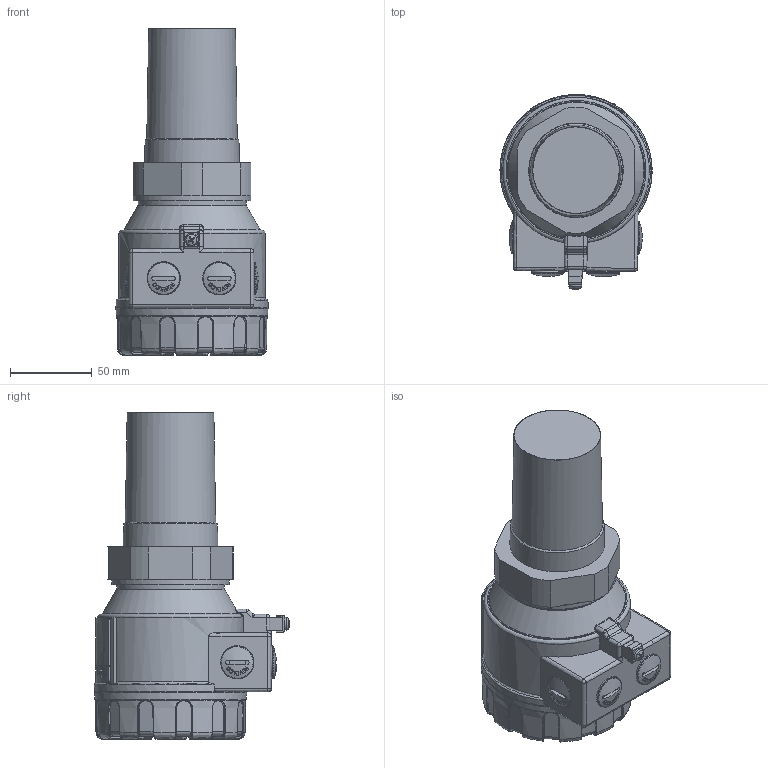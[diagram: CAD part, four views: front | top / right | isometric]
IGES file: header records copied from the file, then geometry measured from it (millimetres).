
Global section: file name: SI_370_Műház,2; native system: 2HAutodesk Inventor 2015; preprocessor: unknown; author: aantal; date: 20150306.113119; units: millimetre
Bounding box: 92.97 x 119.27 x 199.6 mm (x, y, z)
Volume: 989375 mm3; surface area: 103600.3 mm2
Topology: 11 solids, 11 shells, 1255 faces, 3131 edges, 1933 vertices
Faces by surface type: bspline 1255
